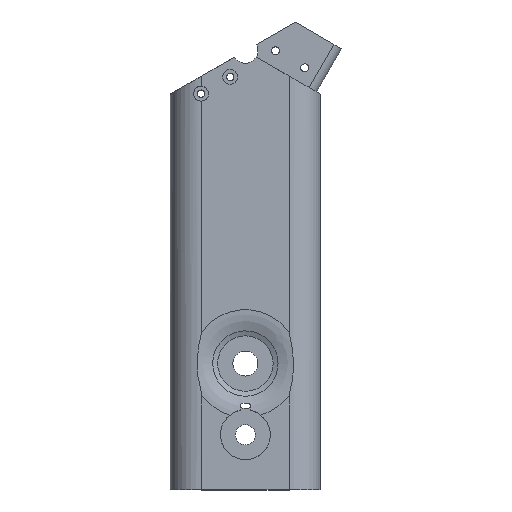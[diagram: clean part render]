
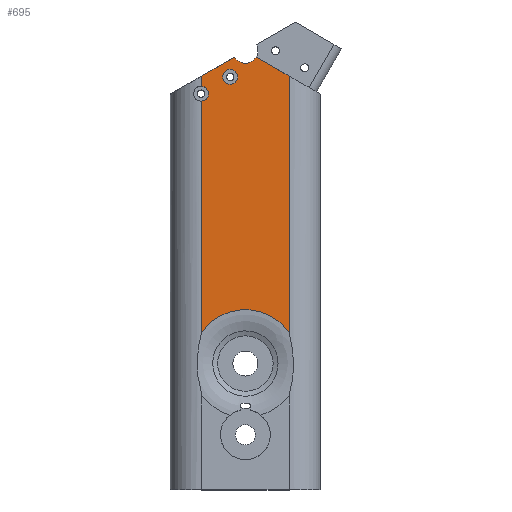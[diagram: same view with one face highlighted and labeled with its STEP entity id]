
A CAD part, top view. The second image highlights one B-rep face of the part: STEP entity #695.
In plain terms, the highlighted planar face has unit normal (0, 0, 1).
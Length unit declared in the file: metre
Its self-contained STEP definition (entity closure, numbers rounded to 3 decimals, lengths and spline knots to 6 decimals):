
#695 = ADVANCED_FACE( '', ( #2021, #2022 ), #2023, .T. );
#2021 = FACE_BOUND( '', #4024, .T. );
#2022 = FACE_OUTER_BOUND( '', #4025, .T. );
#2023 = PLANE( '', #4026 );
#4024 = EDGE_LOOP( '', ( #6076 ) );
#4025 = EDGE_LOOP( '', ( #6077, #6078, #6079, #6080, #6081, #6082, #6083, #6084 ) );
#4026 = AXIS2_PLACEMENT_3D( '', #6085, #6086, #6087 );
#6076 = ORIENTED_EDGE( '', *, *, #12415, .F. );
#6077 = ORIENTED_EDGE( '', *, *, #12416, .F. );
#6078 = ORIENTED_EDGE( '', *, *, #12417, .T. );
#6079 = ORIENTED_EDGE( '', *, *, #12418, .T. );
#6080 = ORIENTED_EDGE( '', *, *, #12419, .F. );
#6081 = ORIENTED_EDGE( '', *, *, #12420, .T. );
#6082 = ORIENTED_EDGE( '', *, *, #12421, .T. );
#6083 = ORIENTED_EDGE( '', *, *, #12422, .T. );
#6084 = ORIENTED_EDGE( '', *, *, #12423, .F. );
#6085 = CARTESIAN_POINT( '', ( 0., -0.05112, 0.015 ) );
#6086 = DIRECTION( '', ( 0., 0., 1. ) );
#6087 = DIRECTION( '', ( 1., 0., 0. ) );
#12415 = EDGE_CURVE( '', #14996, #14996, #14997, .T. );
#12416 = EDGE_CURVE( '', #14998, #14999, #15000, .T. );
#12417 = EDGE_CURVE( '', #14998, #15001, #15002, .T. );
#12418 = EDGE_CURVE( '', #15001, #15003, #15004, .T. );
#12419 = EDGE_CURVE( '', #15005, #15003, #15006, .T. );
#12420 = EDGE_CURVE( '', #15005, #15007, #15008, .T. );
#12421 = EDGE_CURVE( '', #15007, #15009, #15010, .F. );
#12422 = EDGE_CURVE( '', #15009, #15011, #15012, .T. );
#12423 = EDGE_CURVE( '', #14999, #15011, #15013, .T. );
#14996 = VERTEX_POINT( '', #18844 );
#14997 = CIRCLE( '', #18845, 0.003 );
#14998 = VERTEX_POINT( '', #18846 );
#14999 = VERTEX_POINT( '', #18847 );
#15000 = CIRCLE( '', #18848, 0.005 );
#15001 = VERTEX_POINT( '', #18849 );
#15002 = LINE( '', #18850, #18851 );
#15003 = VERTEX_POINT( '', #18852 );
#15004 = LINE( '', #18853, #18854 );
#15005 = VERTEX_POINT( '', #18855 );
#15006 = CIRCLE( '', #18856, 0.003 );
#15007 = VERTEX_POINT( '', #18857 );
#15008 = LINE( '', #18858, #18859 );
#15009 = VERTEX_POINT( '', #18860 );
#15010 = CIRCLE( '', #18861, 0.021534 );
#15011 = VERTEX_POINT( '', #18862 );
#15012 = LINE( '', #18863, #18864 );
#15013 = LINE( '', #18865, #18866 );
#18844 = CARTESIAN_POINT( '', ( -0.003062, 0.021341, 0.015 ) );
#18845 = AXIS2_PLACEMENT_3D( '', #24588, #24589, #24590 );
#18846 = CARTESIAN_POINT( '', ( -0.00433, 0.029269, 0.015 ) );
#18847 = CARTESIAN_POINT( '', ( 0.00433, 0.029269, 0.015 ) );
#18848 = AXIS2_PLACEMENT_3D( '', #24591, #24592, #24593 );
#18849 = CARTESIAN_POINT( '', ( -0.0175, 0.021666, 0.015 ) );
#18850 = CARTESIAN_POINT( '', ( -0.01327, 0.024108, 0.015 ) );
#18851 = VECTOR( '', #24594, 1. );
#18852 = CARTESIAN_POINT( '', ( -0.0175, 0.01758, 0.015 ) );
#18853 = CARTESIAN_POINT( '', ( -0.0175, -0.149009, 0.015 ) );
#18854 = VECTOR( '', #24595, 1. );
#18855 = CARTESIAN_POINT( '', ( -0.0175, 0.011602, 0.015 ) );
#18856 = AXIS2_PLACEMENT_3D( '', #24596, #24597, #24598 );
#18857 = CARTESIAN_POINT( '', ( -0.0175, -0.080882, 0.015 ) );
#18858 = CARTESIAN_POINT( '', ( -0.0175, -0.149009, 0.015 ) );
#18859 = VECTOR( '', #24599, 1. );
#18860 = CARTESIAN_POINT( '', ( 0.0175, -0.080882, 0.015 ) );
#18861 = AXIS2_PLACEMENT_3D( '', #24600, #24601, #24602 );
#18862 = CARTESIAN_POINT( '', ( 0.0175, 0.021666, 0.015 ) );
#18863 = CARTESIAN_POINT( '', ( 0.0175, 0.014449, 0.015 ) );
#18864 = VECTOR( '', #24603, 1. );
#18865 = CARTESIAN_POINT( '', ( 0.013281, 0.024101, 0.015 ) );
#18866 = VECTOR( '', #24604, 1. );
#24588 = CARTESIAN_POINT( '', ( -0.006062, 0.021341, 0.015 ) );
#24589 = DIRECTION( '', ( 0., 0., 1. ) );
#24590 = DIRECTION( '', ( 1., 0., 0. ) );
#24591 = CARTESIAN_POINT( '', ( 0., 0.031769, 0.015 ) );
#24592 = DIRECTION( '', ( 0., 0., 1. ) );
#24593 = DIRECTION( '', ( 1., 0., 0. ) );
#24594 = DIRECTION( '', ( -0.866, -0.5, 0. ) );
#24595 = DIRECTION( '', ( 0., -1., 0. ) );
#24596 = CARTESIAN_POINT( '', ( -0.017754, 0.014591, 0.015 ) );
#24597 = DIRECTION( '', ( 0., 0., 1. ) );
#24598 = DIRECTION( '', ( 1., 0., 0. ) );
#24599 = DIRECTION( '', ( 0., -1., 0. ) );
#24600 = CARTESIAN_POINT( '', ( 0., -0.093431, 0.015 ) );
#24601 = DIRECTION( '', ( 0., 0., 1. ) );
#24602 = DIRECTION( '', ( 1., 0., 0. ) );
#24603 = DIRECTION( '', ( 0., 1., 0. ) );
#24604 = DIRECTION( '', ( 0.866, -0.5, 0. ) );
